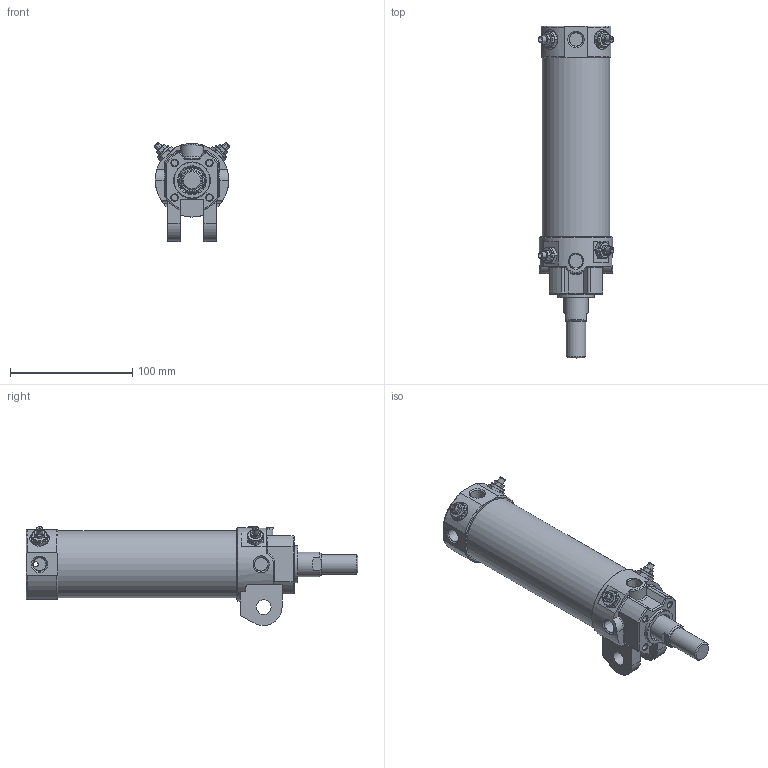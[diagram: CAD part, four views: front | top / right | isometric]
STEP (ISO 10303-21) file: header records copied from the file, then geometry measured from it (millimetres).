
FILE_DESCRIPTION((''),'2;1');
FILE_NAME('I:\3D電子目錄\氣缸\DCK\DCK\DCK-1B-50x100.stp','2008-02-26T14:16:20',('Administrator'),(''),'Autodesk Inventor 11','Autodesk Inventor 11','');
FILE_SCHEMA(('AUTOMOTIVE_DESIGN { 1 0 10303 214 1 1 1 1 }'));
Length unit declared in the file: millimetre
Products named in the file (6): DCK-1B-50; 緩衝針; 緩衝針-1; 緩衝針-201; 緩衝針-3
Assembly tree (8 placements, depth 3):
  DCK-1B-50
    DCK-1B-50
    緩衝針  x4
      緩衝針-1
      緩衝針-201
      緩衝針-3
Bounding box: 61.76 x 271 x 80.87 mm (x, y, z)
Volume: 242028.3 mm3; surface area: 110136.7 mm2
Topology: 15 solids, 15 shells, 570 faces, 1270 edges, 794 vertices
Faces by surface type: plane 213, cylinder 168, cone 133, torus 30, bspline 26
Full cylindrical faces by diameter (mm): 2 x2, 3 x4, 3.8 x2, 4 x6, 4.6 x4, 5 x8, 5.1 x4, 5.2 x12, 5.5 x4, 7.25 x1, 7.9 x4, 8 x2, 10.3 x1, 11.3 x1, 12 x4, 12.8 x4, 16 x2, 20 x1, 21 x1, 22 x2, 23 x1, 24.7 x1, 26 x1, 27 x1, 28 x1, 29 x1, 30 x1, 33 x1, 49.5 x1, 52 x2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
Entity records: 11478 total; most frequent: CARTESIAN_POINT 4706, DIRECTION 1374, ORIENTED_EDGE 1222, EDGE_CURVE 611, AXIS2_PLACEMENT_3D 598, EDGE_LOOP 497, VERTEX_POINT 444, FACE_OUTER_BOUND 321
